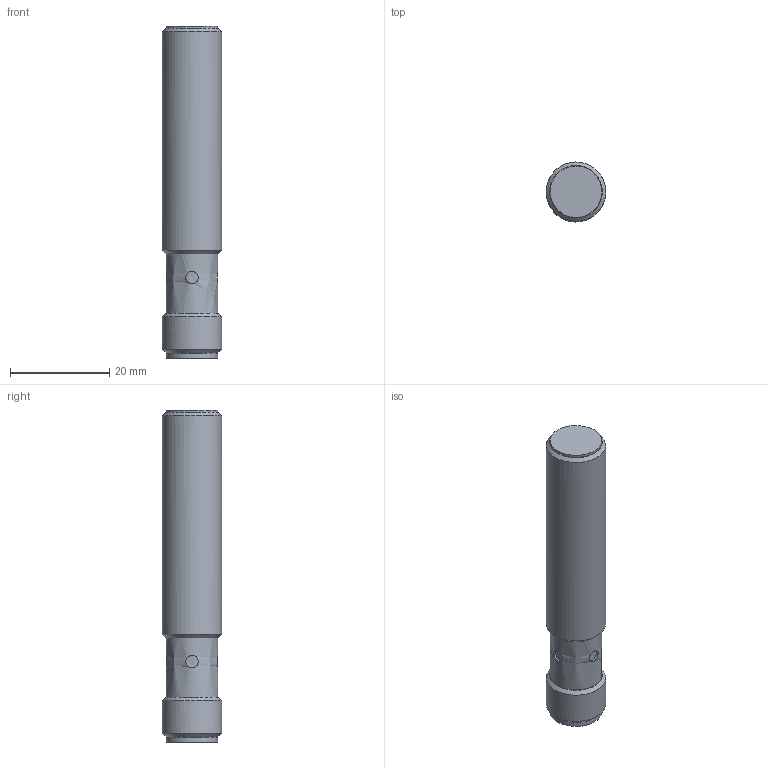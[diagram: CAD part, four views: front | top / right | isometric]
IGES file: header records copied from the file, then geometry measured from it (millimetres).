
Global section: file name: d:\cs\DSD-0294.igs; preprocessor: I-DEAS 3D IGES Translator 13; date: 20130509.131743; units: millimetre
Bounding box: 11.99 x 12 x 67 mm (x, y, z)
Volume: 6770.4 mm3; surface area: 3026.4 mm2
Topology: 1 solids, 1 shells, 41 faces, 75 edges, 47 vertices
Faces by surface type: bspline 41
